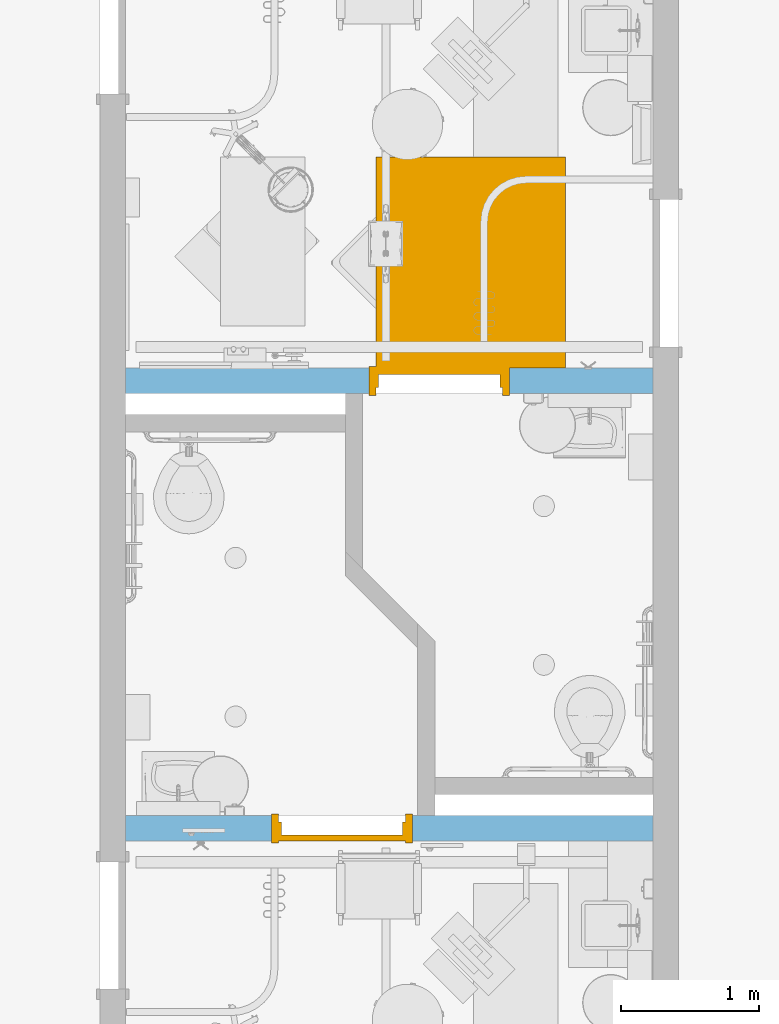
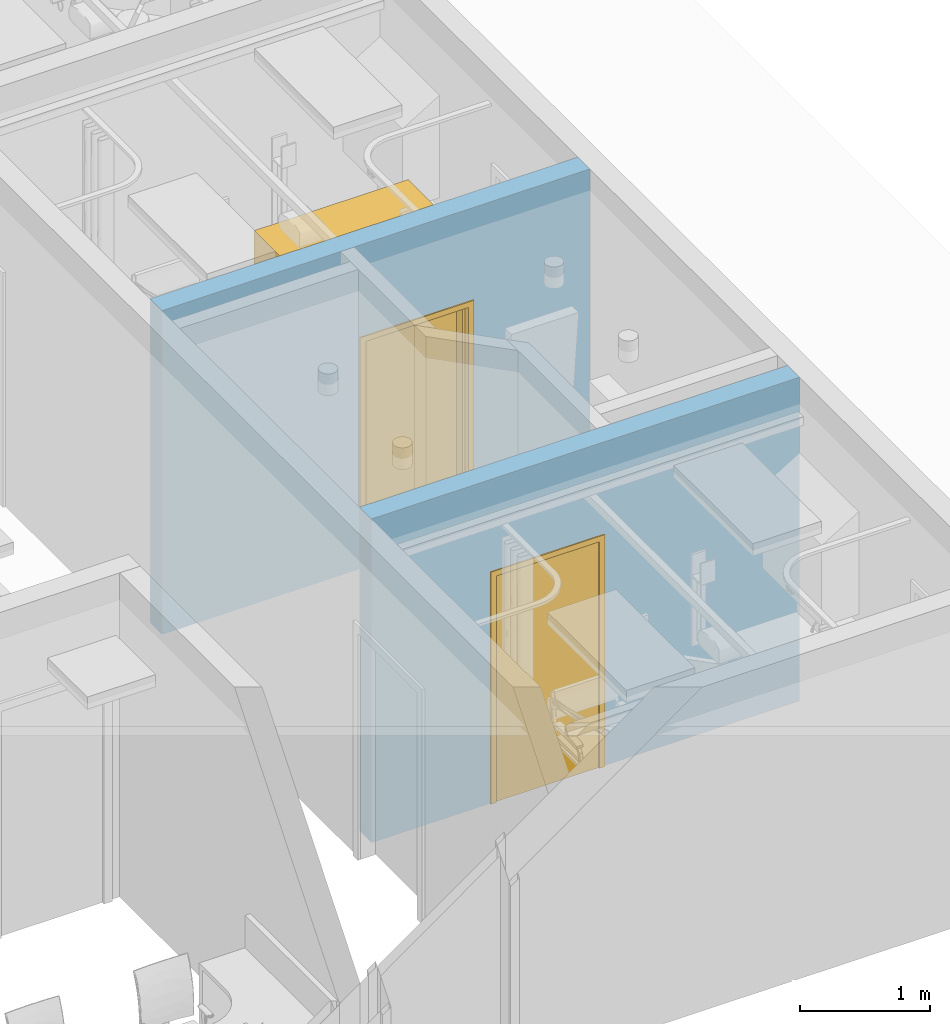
# One storey, part 4 of 142: 2 doors, 2 openings, plus 2 elements that do not belong to this part.
"""IFC2X3 building model written with IfcOpenShell, lengths in feet."""

from ifc_helpers import new_model, entity, si_unit, converted_unit, derived_unit, direction, frame, frame_2d, origin, place, context, subcontext, project, spatial, rectangle, extrude, faceted_brep, source, transform, mapped, material, layer, layer_set, layer_usage, type_object, type_shapes, element, fill, save


model = new_model("IFC2X3")

# Units and contexts
model_context = context("Model", 3, precision=0.0001, world=origin(), true_north=direction((6.12303176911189e-17, 1.0)))
body_context = subcontext(model_context, "Body", "Model", "MODEL_VIEW")
ifc_project = project(units=[converted_unit("LENGTHUNIT", "FOOT", entity("IfcRatioMeasure", 0.3048), si_unit("LENGTHUNIT", "METRE"), dimensions=[1, 0, 0, 0, 0, 0, 0]), converted_unit("AREAUNIT", "SQUARE FOOT", entity("IfcRatioMeasure", 0.09290304), si_unit("AREAUNIT", "SQUARE_METRE"), dimensions=[2, 0, 0, 0, 0, 0, 0]), converted_unit("VOLUMEUNIT", "CUBIC FOOT", entity("IfcRatioMeasure", 0.028316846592), si_unit("VOLUMEUNIT", "CUBIC_METRE"), dimensions=[3, 0, 0, 0, 0, 0, 0]), converted_unit("PLANEANGLEUNIT", "DEGREE", entity("IfcRatioMeasure", 0.0174532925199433), si_unit("PLANEANGLEUNIT", "RADIAN"), dimensions=[0, 0, 0, 0, 0, 0, 0]), si_unit("MASSUNIT", "GRAM", prefix="KILO"), derived_unit("MASSDENSITYUNIT", [(si_unit("MASSUNIT", "GRAM", prefix="KILO"), 1), (si_unit("LENGTHUNIT", "METRE"), -3)]), si_unit("TIMEUNIT", "SECOND"), si_unit("FREQUENCYUNIT", "HERTZ"), si_unit("THERMODYNAMICTEMPERATUREUNIT", "DEGREE_CELSIUS"), derived_unit("THERMALTRANSMITTANCEUNIT", [(si_unit("MASSUNIT", "GRAM", prefix="KILO"), 1), (si_unit("THERMODYNAMICTEMPERATUREUNIT", "KELVIN"), -1), (si_unit("TIMEUNIT", "SECOND"), -3)]), derived_unit("VOLUMETRICFLOWRATEUNIT", [(si_unit("LENGTHUNIT", "METRE"), 3), (si_unit("TIMEUNIT", "SECOND"), -1)]), si_unit("ELECTRICCURRENTUNIT", "AMPERE"), si_unit("ELECTRICVOLTAGEUNIT", "VOLT"), si_unit("POWERUNIT", "WATT"), si_unit("FORCEUNIT", "NEWTON"), si_unit("ILLUMINANCEUNIT", "LUX"), si_unit("LUMINOUSFLUXUNIT", "LUMEN"), si_unit("LUMINOUSINTENSITYUNIT", "CANDELA"), derived_unit("USERDEFINED", [(si_unit("MASSUNIT", "GRAM", prefix="KILO"), -1), (si_unit("LENGTHUNIT", "METRE"), -2), (si_unit("TIMEUNIT", "SECOND"), 3), (si_unit("LUMINOUSFLUXUNIT", "LUMEN"), 1)]), derived_unit("LINEARVELOCITYUNIT", [(si_unit("LENGTHUNIT", "METRE"), 1), (si_unit("TIMEUNIT", "SECOND"), -1)]), si_unit("PRESSUREUNIT", "PASCAL"), derived_unit("USERDEFINED", [(si_unit("LENGTHUNIT", "METRE"), -2), (si_unit("MASSUNIT", "GRAM", prefix="KILO"), 1), (si_unit("TIMEUNIT", "SECOND"), -2)])], contexts=[model_context])

# Site, building, storey
site_placement = place(None, origin())
site = spatial("IfcSite", under=ifc_project, at=site_placement, Name="Default", CompositionType="ELEMENT")
building_placement = place(site_placement, origin())
building = spatial("IfcBuilding", under=site, at=building_placement, Name="OUTPATIENT / PACT CLINIC (Ch. 265)", CompositionType="ELEMENT")
storey_placement = place(building_placement, origin())
storey = spatial("IfcBuildingStorey", under=building, at=storey_placement, Name="LEVEL 1", CompositionType="ELEMENT", Elevation=0.0)

# Wall, opening, door
ifc_material = material(Name="<Unnamed>")
ifc_layer = layer(ifc_material, 0.604166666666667)
ifc_layer_set = layer_set([ifc_layer], Name="Basic Wall:Interior - 7 1/4\"")
ifc_layer_usage_1 = layer_usage(ifc_layer_set, "AXIS2", "NEGATIVE", 0.302083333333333)
wall_type = type_object("IfcWallType", Name="Basic Wall:Interior - 7 1/4\"", PredefinedType="STANDARD", material=ifc_layer_set)
wall_1_placement = place(storey_placement, frame((447.754977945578, -931.743425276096, 0.0), z_axis=(0.0, 0.0, 1.0), x_axis=(-1.0, 0.0, 0.0)))
wall_1 = element("IfcWallStandardCase", 1, at=wall_1_placement, inside=storey, type_object=wall_type, material=ifc_layer_usage_1, Name="Basic Wall:Interior - 7 1/4\"", ObjectType="Basic Wall:Interior - 7 1/4\"", context=body_context, shape_type="SweptSolid", body=[
    extrude(rectangle(XDim=12.4999533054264, YDim=0.604166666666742, at=frame_2d((6.2499766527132, 2.09832151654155e-14), x_axis=(-1.0, 0.0))), origin(), (0.0, 0.0, 1.0), 9.99999999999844),
])
opening_1_placement = place(wall_1_placement, frame((3.40068003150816, -0.302083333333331, 0.0)))
opening_1 = element("IfcOpeningElement", 2, at=opening_1_placement, cuts=wall_1, Name="DOOR-Hinged-SGL:F  36\"x 84\":1", ObjectType="Opening", context=body_context, shape_type="SweptSolid", body=[
    extrude(rectangle(XDim=7.16666666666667, YDim=3.33333333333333, at=frame_2d((3.58333333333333, 1.66666666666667), x_axis=(1.0, 0.0))), frame((0.0, 0.0, 0.0), z_axis=(0.0, 1.0, 0.0), x_axis=(0.0, 0.0, 1.0)), (0.0, 0.0, 1.0), 0.604166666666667),
])
door_style_1 = type_object("IfcDoorStyle", Name="F  36\"x 84\"", ConstructionType="NOTDEFINED", OperationType="NOTDEFINED", ParameterTakesPrecedence=False, Sizeable=False)
shared_shape_1 = source(origin(), body_context, "Body", "Brep", [
    faceted_brep([(0.333333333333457, 0.604166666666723, 0.0), (0.500000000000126, 0.604166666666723, 0.0), (0.500000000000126, 0.458333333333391, 0.0), (0.562500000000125, 0.458333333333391, 0.0), (0.562500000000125, 0.145833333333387, 0.0), (0.500000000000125, 0.145833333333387, 0.0), (0.500000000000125, 0.0, 0.0), (0.333333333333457, 0.0, 0.0), (0.333333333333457, 0.0, 7.16666666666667), (0.333333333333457, 0.604166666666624, 7.16666666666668), (0.500000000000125, 0.0, 7.0), (3.50000000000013, 0.0, 7.0), (3.50000000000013, 0.0, 0.0), (3.66666666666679, 0.0, 0.0), (3.66666666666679, 0.0, 7.16666666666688), (0.500000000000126, 0.604166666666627, 7.0), (0.500000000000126, 0.458333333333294, 7.0), (3.66666666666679, 0.604166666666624, 7.16666666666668), (3.66666666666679, 0.604166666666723, 0.0), (3.50000000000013, 0.604166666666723, 0.0), (3.50000000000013, 0.604166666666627, 7.0), (3.50000000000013, 0.145833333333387, 0.0), (3.43750000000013, 0.145833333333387, 0.0), (3.43750000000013, 0.458333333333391, 0.0), (3.50000000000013, 0.458333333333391, 0.0), (3.50000000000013, 0.14583333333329, 7.0), (0.500000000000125, 0.14583333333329, 7.0), (3.50000000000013, 0.458333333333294, 7.0), (0.562500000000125, 0.145833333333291, 6.93749999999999), (3.43750000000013, 0.145833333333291, 6.93749999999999), (0.562500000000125, 0.458333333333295, 6.9375), (3.43750000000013, 0.458333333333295, 6.9375)], [[[0, 1, 2, 3, 4, 5, 6, 7]], [[7, 8, 9, 0]], [[6, 10, 11, 12, 13, 14, 8, 7]], [[1, 15, 16, 2]], [[0, 9, 17, 18, 19, 20, 15, 1]], [[13, 18, 17, 14]], [[18, 13, 12, 21, 22, 23, 24, 19]], [[14, 17, 9, 8]], [[25, 11, 10, 26]], [[27, 20, 19, 24]], [[5, 26, 10, 6]], [[4, 28, 29, 22, 21, 25, 26, 5]], [[3, 30, 28, 4]], [[2, 16, 27, 24, 23, 31, 30, 3]], [[12, 11, 25, 21]], [[22, 29, 31, 23]], [[30, 31, 29, 28]], [[15, 20, 27, 16]]]),
    faceted_brep([(0.499999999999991, 0.458333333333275, 7.0), (0.499999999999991, 0.458333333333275, 0.0), (3.49999999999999, 0.458333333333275, 0.0), (3.49999999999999, 0.458333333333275, 7.0), (3.49999999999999, 0.604166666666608, 0.0), (3.49999999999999, 0.604166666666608, 7.0), (0.499999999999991, 0.604166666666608, 0.0), (0.499999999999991, 0.604166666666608, 7.0)], [[[0, 1, 2, 3]], [[2, 4, 5, 3]], [[1, 6, 4, 2]], [[0, 7, 6, 1]], [[7, 5, 4, 6]], [[3, 5, 7, 0]]]),
    faceted_brep([(0.500000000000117, 5.60416666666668, 7.0), (0.500000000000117, 0.60416666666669, 7.0), (5.0, 0.60416666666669, 7.0), (5.0, 5.60416666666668, 7.0), (0.500000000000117, 5.60416666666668, 0.0), (5.0, 5.60416666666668, 0.0), (5.0, 0.60416666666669, 0.0), (0.500000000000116, 0.60416666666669, 0.0)], [[[0, 1, 2, 3]], [[4, 5, 6, 7]], [[3, 5, 4, 0]], [[2, 6, 5, 3]], [[1, 7, 6, 2]], [[0, 4, 7, 1]]]),
    faceted_brep([(3.49999999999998, 0.0, 0.0), (3.50000000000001, 0.0, 7.0), (0.500000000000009, 0.0, 7.0), (0.500000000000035, 0.0, 0.0), (0.33333333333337, 0.0, 0.0), (0.33333333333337, 0.0, 7.16666666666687), (3.66666666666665, 0.0, 7.16666666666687), (3.66666666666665, 0.0, 0.0), (3.49999999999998, -0.0416666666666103, 0.0), (3.50000000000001, -0.0416666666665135, 7.0), (0.500000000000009, -0.0416666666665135, 7.0), (0.500000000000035, -0.0416666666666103, 0.0), (0.33333333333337, -0.0416666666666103, 0.0), (0.33333333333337, -0.0416666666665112, 7.16666666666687), (3.66666666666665, -0.0416666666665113, 7.16666666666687), (3.66666666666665, -0.0416666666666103, 0.0)], [[[0, 1, 2, 3, 4, 5, 6, 7]], [[1, 0, 8, 9]], [[3, 2, 10, 11]], [[4, 3, 11, 12]], [[5, 4, 12, 13]], [[7, 6, 14, 15]], [[0, 7, 15, 8]], [[8, 15, 14, 13, 12, 11, 10, 9]], [[2, 1, 9, 10]], [[6, 5, 13, 14]]]),
    faceted_brep([(3.49999999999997, 0.604166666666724, 0.0), (3.66666666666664, 0.604166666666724, 0.0), (3.66666666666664, 0.604166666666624, 7.16666666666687), (0.33333333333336, 0.604166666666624, 7.16666666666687), (0.333333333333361, 0.604166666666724, 0.0), (0.500000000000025, 0.604166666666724, 0.0), (0.499999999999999, 0.604166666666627, 7.0), (3.5, 0.604166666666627, 7.0), (3.5, 0.645833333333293, 7.0), (3.49999999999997, 0.64583333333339, 0.0), (0.500000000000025, 0.64583333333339, 0.0), (0.499999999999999, 0.645833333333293, 7.0), (0.333333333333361, 0.64583333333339, 0.0), (0.333333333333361, 0.645833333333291, 7.16666666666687), (3.66666666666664, 0.64583333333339, 0.0), (3.66666666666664, 0.645833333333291, 7.16666666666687)], [[[0, 1, 2, 3, 4, 5, 6, 7]], [[7, 8, 9, 0]], [[5, 10, 11, 6]], [[4, 12, 10, 5]], [[3, 13, 12, 4]], [[1, 14, 15, 2]], [[0, 9, 14, 1]], [[9, 8, 11, 10, 12, 13, 15, 14]], [[6, 11, 8, 7]], [[2, 15, 13, 3]]]),
])
type_shapes(door_style_1, [shared_shape_1])
door_1_placement = place(opening_1_placement, frame((3.66666666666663, 0.604166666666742, 0.0), z_axis=(0.0, 0.0, 1.0), x_axis=(-1.0, 0.0, 0.0)))
door_1 = element("IfcDoor", 3, at=door_1_placement, inside=storey, type_object=door_style_1, Name="DOOR-Hinged-SGL:F  36\"x 84\"", ObjectType="F  36\"x 84\"", OverallHeight=7.16666666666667, OverallWidth=3.33333333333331, context=body_context, shape_type="MappedRepresentation", body=[
    mapped(shared_shape_1, transform((0.0, 0.0, 0.0), scale=1.0)),
])
fill(opening_1, door_1)

ifc_layer_usage_2 = layer_usage(ifc_layer_set, "AXIS2", "NEGATIVE", 0.302083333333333)
wall_2_placement = place(storey_placement, frame((435.255074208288, -942.347572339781, 0.0)))
wall_2 = element("IfcWallStandardCase", 4, at=wall_2_placement, inside=storey, type_object=wall_type, material=ifc_layer_usage_2, Name="Basic Wall:Interior - 7 1/4\"", ObjectType="Basic Wall:Interior - 7 1/4\"", context=body_context, shape_type="SweptSolid", body=[
    extrude(rectangle(XDim=12.4999037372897, YDim=0.604166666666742, at=frame_2d((6.24995186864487, 2.17326157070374e-14), x_axis=(-1.0, 0.0))), origin(), (0.0, 0.0, 1.0), 9.99999999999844),
])
opening_2_placement = place(wall_2_placement, frame((6.79641564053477, 0.302083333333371, 0.0)))
opening_2 = element("IfcOpeningElement", 5, at=opening_2_placement, cuts=wall_2, Name="DOOR-Hinged-SGL:F  36\"x 84\":1", ObjectType="Opening", context=body_context, shape_type="SweptSolid", body=[
    extrude(rectangle(XDim=7.16666666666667, YDim=3.33333333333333, at=frame_2d((3.58333333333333, 1.66666666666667), x_axis=(1.0, 0.0))), frame((0.0, 0.0, 0.0), z_axis=(0.0, -1.0, 0.0), x_axis=(0.0, 0.0, 1.0)), (0.0, 0.0, 1.0), 0.604166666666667),
])
door_style_2 = type_object("IfcDoorStyle", Name="F  36\"x 84\"", ConstructionType="NOTDEFINED", OperationType="NOTDEFINED", ParameterTakesPrecedence=False, Sizeable=False)
shared_shape_2 = source(origin(), body_context, "Body", "Brep", [
    faceted_brep([(0.333333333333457, 0.604166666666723, 0.0), (0.500000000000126, 0.604166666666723, 0.0), (0.500000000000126, 0.458333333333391, 0.0), (0.562500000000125, 0.458333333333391, 0.0), (0.562500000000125, 0.145833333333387, 0.0), (0.500000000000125, 0.145833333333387, 0.0), (0.500000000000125, 0.0, 0.0), (0.333333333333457, 0.0, 0.0), (0.333333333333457, 0.0, 7.16666666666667), (0.333333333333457, 0.604166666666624, 7.16666666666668), (0.500000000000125, 0.0, 7.0), (3.50000000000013, 0.0, 7.0), (3.50000000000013, 0.0, 0.0), (3.66666666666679, 0.0, 0.0), (3.66666666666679, 0.0, 7.16666666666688), (0.500000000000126, 0.604166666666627, 7.0), (0.500000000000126, 0.458333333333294, 7.0), (3.66666666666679, 0.604166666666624, 7.16666666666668), (3.66666666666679, 0.604166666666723, 0.0), (3.50000000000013, 0.604166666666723, 0.0), (3.50000000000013, 0.604166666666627, 7.0), (3.50000000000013, 0.145833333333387, 0.0), (3.43750000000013, 0.145833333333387, 0.0), (3.43750000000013, 0.458333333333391, 0.0), (3.50000000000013, 0.458333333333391, 0.0), (3.50000000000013, 0.14583333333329, 7.0), (0.500000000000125, 0.14583333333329, 7.0), (3.50000000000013, 0.458333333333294, 7.0), (0.562500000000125, 0.145833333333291, 6.93749999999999), (3.43750000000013, 0.145833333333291, 6.93749999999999), (0.562500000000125, 0.458333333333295, 6.9375), (3.43750000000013, 0.458333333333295, 6.9375)], [[[0, 1, 2, 3, 4, 5, 6, 7]], [[7, 8, 9, 0]], [[6, 10, 11, 12, 13, 14, 8, 7]], [[1, 15, 16, 2]], [[0, 9, 17, 18, 19, 20, 15, 1]], [[13, 18, 17, 14]], [[18, 13, 12, 21, 22, 23, 24, 19]], [[14, 17, 9, 8]], [[25, 11, 10, 26]], [[27, 20, 19, 24]], [[5, 26, 10, 6]], [[4, 28, 29, 22, 21, 25, 26, 5]], [[3, 30, 28, 4]], [[2, 16, 27, 24, 23, 31, 30, 3]], [[12, 11, 25, 21]], [[22, 29, 31, 23]], [[30, 31, 29, 28]], [[15, 20, 27, 16]]]),
    faceted_brep([(0.499999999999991, 0.458333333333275, 7.0), (0.499999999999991, 0.458333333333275, 0.0), (3.49999999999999, 0.458333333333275, 0.0), (3.49999999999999, 0.458333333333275, 7.0), (3.49999999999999, 0.604166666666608, 0.0), (3.49999999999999, 0.604166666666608, 7.0), (0.499999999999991, 0.604166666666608, 0.0), (0.499999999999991, 0.604166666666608, 7.0)], [[[0, 1, 2, 3]], [[2, 4, 5, 3]], [[1, 6, 4, 2]], [[0, 7, 6, 1]], [[7, 5, 4, 6]], [[3, 5, 7, 0]]]),
    faceted_brep([(3.49999999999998, 0.0, 0.0), (3.50000000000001, 0.0, 7.0), (0.500000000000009, 0.0, 7.0), (0.500000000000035, 0.0, 0.0), (0.33333333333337, 0.0, 0.0), (0.33333333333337, 0.0, 7.16666666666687), (3.66666666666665, 0.0, 7.16666666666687), (3.66666666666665, 0.0, 0.0), (3.49999999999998, -0.0416666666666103, 0.0), (3.50000000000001, -0.0416666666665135, 7.0), (0.500000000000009, -0.0416666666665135, 7.0), (0.500000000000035, -0.0416666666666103, 0.0), (0.33333333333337, -0.0416666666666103, 0.0), (0.33333333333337, -0.0416666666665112, 7.16666666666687), (3.66666666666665, -0.0416666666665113, 7.16666666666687), (3.66666666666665, -0.0416666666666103, 0.0)], [[[0, 1, 2, 3, 4, 5, 6, 7]], [[1, 0, 8, 9]], [[3, 2, 10, 11]], [[4, 3, 11, 12]], [[5, 4, 12, 13]], [[7, 6, 14, 15]], [[0, 7, 15, 8]], [[8, 15, 14, 13, 12, 11, 10, 9]], [[2, 1, 9, 10]], [[6, 5, 13, 14]]]),
    faceted_brep([(3.49999999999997, 0.604166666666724, 0.0), (3.66666666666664, 0.604166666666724, 0.0), (3.66666666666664, 0.604166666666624, 7.16666666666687), (0.33333333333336, 0.604166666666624, 7.16666666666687), (0.333333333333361, 0.604166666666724, 0.0), (0.500000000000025, 0.604166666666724, 0.0), (0.499999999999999, 0.604166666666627, 7.0), (3.5, 0.604166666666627, 7.0), (3.5, 0.645833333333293, 7.0), (3.49999999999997, 0.64583333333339, 0.0), (0.500000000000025, 0.64583333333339, 0.0), (0.499999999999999, 0.645833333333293, 7.0), (0.333333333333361, 0.64583333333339, 0.0), (0.333333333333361, 0.645833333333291, 7.16666666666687), (3.66666666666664, 0.64583333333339, 0.0), (3.66666666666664, 0.645833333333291, 7.16666666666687)], [[[0, 1, 2, 3, 4, 5, 6, 7]], [[7, 8, 9, 0]], [[5, 10, 11, 6]], [[4, 12, 10, 5]], [[3, 13, 12, 4]], [[1, 14, 15, 2]], [[0, 9, 14, 1]], [[9, 8, 11, 10, 12, 13, 15, 14]], [[6, 11, 8, 7]], [[2, 15, 13, 3]]]),
])
type_shapes(door_style_2, [shared_shape_2])
door_2_placement = place(opening_2_placement, frame((0.333333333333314, 0.0, 0.0), z_axis=(0.0, 0.0, 1.0), x_axis=(-1.0, 0.0, 0.0)))
door_2 = element("IfcDoor", 6, at=door_2_placement, inside=storey, type_object=door_style_2, Name="DOOR-Hinged-SGL:F  36\"x 84\"", ObjectType="F  36\"x 84\"", OverallHeight=7.16666666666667, OverallWidth=3.33333333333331, context=body_context, shape_type="MappedRepresentation", body=[
    mapped(shared_shape_2, transform((0.0, 0.0, 0.0), scale=1.0)),
])
fill(opening_2, door_2)

save(model, "model.ifc")
